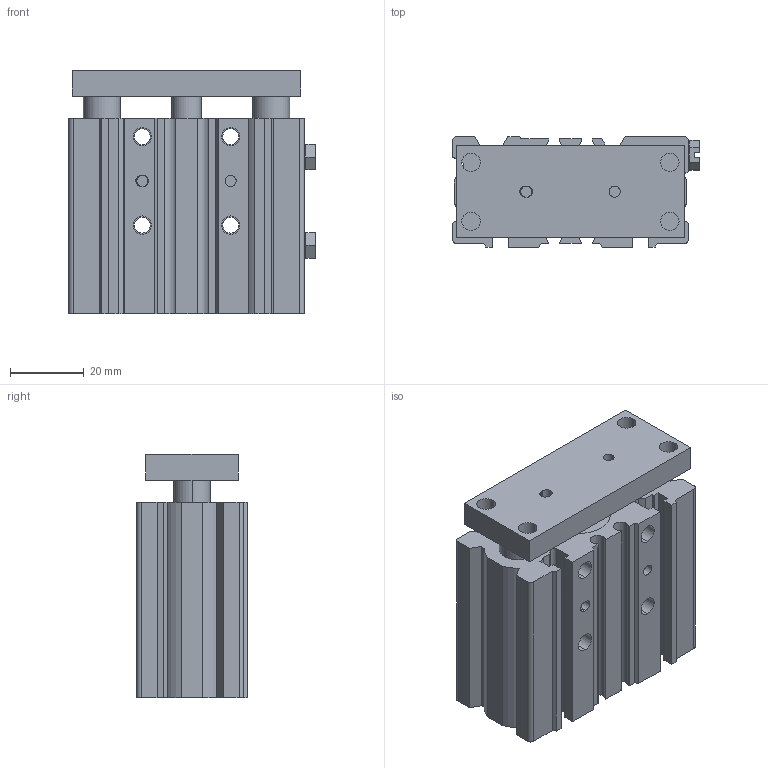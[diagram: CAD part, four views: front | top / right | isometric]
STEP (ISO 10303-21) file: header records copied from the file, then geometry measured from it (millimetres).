
FILE_DESCRIPTION (( 'STEP AP214' ), '1' );
FILE_NAME ('MGPM16-20Z.step.step', '2022-12-12T19:24:17', ( '' ), ( '' ), 'SwSTEP 2.0', 'SolidWorks 2022', '' );
FILE_SCHEMA (( 'AUTOMOTIVE_DESIGN' ));
Length unit declared in the file: millimetre
Products named in the file (4): MGPM16-20Z.step_MGPZ_ROD_16M; MGPM16-20Z.step_MGPZ_PLUG_M5; MGPM16-20Z.step_MGPZ_TUBE_16; MGPM16-20Z.step
Assembly tree (4 placements, depth 2):
  MGPM16-20Z.step
    MGPM16-20Z.step_MGPZ_TUBE_16
    MGPM16-20Z.step_MGPZ_ROD_16M
    MGPM16-20Z.step_MGPZ_PLUG_M5  x2
Bounding box: 67 x 30 x 66 mm (x, y, z)
Volume: 90807.6 mm3; surface area: 36094.7 mm2
Topology: 4 solids, 4 shells, 666 faces, 1731 edges, 1136 vertices
Faces by surface type: plane 402, cylinder 129, bspline 123, cone 12
Entity records: 30940 total; most frequent: CARTESIAN_POINT 11536, ORIENTED_EDGE 3358, DIRECTION 2763, EDGE_CURVE 1679, VERTEX_POINT 1104, LINE 1101, VECTOR 1101, AXIS2_PLACEMENT_3D 831
